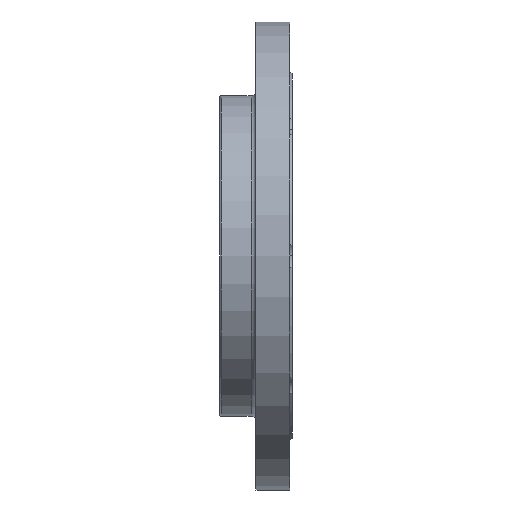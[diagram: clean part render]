
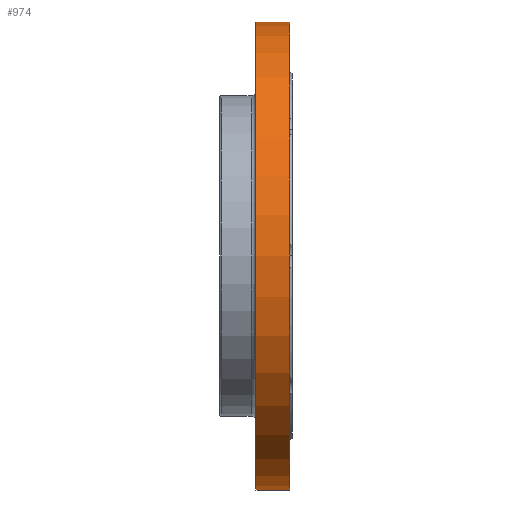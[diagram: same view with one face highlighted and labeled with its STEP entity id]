
A CAD part, left-side view. The second image highlights one B-rep face of the part: STEP entity #974.
In plain terms, the highlighted cylindrical face has radius 142.5 mm (diameter 285 mm), a partial arc.
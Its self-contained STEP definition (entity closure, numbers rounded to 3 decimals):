
#1 = EDGE_CURVE ( 'NONE', #358, #1579, #1483, .T. ) ;
#52 = CARTESIAN_POINT ( 'NONE',  ( 0., 84.699, -142.5 ) ) ;
#70 = CARTESIAN_POINT ( 'NONE',  ( 0., 84.699, 142.5 ) ) ;
#75 = CARTESIAN_POINT ( 'NONE',  ( 0., 22., 0. ) ) ;
#116 = CARTESIAN_POINT ( 'NONE',  ( 0., 22., -142.5 ) ) ;
#172 = EDGE_CURVE ( 'NONE', #1579, #1263, #1252, .T. ) ;
#199 = EDGE_CURVE ( 'NONE', #358, #347, #1486, .T. ) ;
#224 = DIRECTION ( 'NONE',  ( 0., 0., 1. ) ) ;
#250 = CARTESIAN_POINT ( 'NONE',  ( 0., 1.5, 0. ) ) ;
#282 = CARTESIAN_POINT ( 'NONE',  ( 0., 1.5, -142.5 ) ) ;
#347 = VERTEX_POINT ( 'NONE', #1360 ) ;
#358 = VERTEX_POINT ( 'NONE', #282 ) ;
#363 = AXIS2_PLACEMENT_3D ( 'NONE', #75, #854, #224 ) ;
#379 = EDGE_LOOP ( 'NONE', ( #1407, #1019, #1314, #1227 ) ) ;
#386 = DIRECTION ( 'NONE',  ( 0., 1., 0. ) ) ;
#519 = DIRECTION ( 'NONE',  ( 0., 1., 0. ) ) ;
#556 = FACE_OUTER_BOUND ( 'NONE', #379, .T. ) ;
#580 = DIRECTION ( 'NONE',  ( 0., 0., 1. ) ) ;
#688 = VECTOR ( 'NONE', #519, 1000. ) ;
#785 = AXIS2_PLACEMENT_3D ( 'NONE', #1041, #1313, #580 ) ;
#849 = EDGE_CURVE ( 'NONE', #347, #1263, #1400, .T. ) ;
#854 = DIRECTION ( 'NONE',  ( 0., 1., 0. ) ) ;
#863 = DIRECTION ( 'NONE',  ( 0., 0., 1. ) ) ;
#920 = AXIS2_PLACEMENT_3D ( 'NONE', #250, #1472, #863 ) ;
#974 = ADVANCED_FACE ( 'NONE', ( #556 ), #1306, .T. ) ;
#1019 = ORIENTED_EDGE ( 'NONE', *, *, #199, .T. ) ;
#1041 = CARTESIAN_POINT ( 'NONE',  ( 0., 84.699, 0. ) ) ;
#1227 = ORIENTED_EDGE ( 'NONE', *, *, #172, .F. ) ;
#1252 = CIRCLE ( 'NONE', #363, 142.5 ) ;
#1256 = CARTESIAN_POINT ( 'NONE',  ( 0., 22., 142.5 ) ) ;
#1263 = VERTEX_POINT ( 'NONE', #1256 ) ;
#1306 = CYLINDRICAL_SURFACE ( 'NONE', #785, 142.5 ) ;
#1313 = DIRECTION ( 'NONE',  ( 0., 1., 0. ) ) ;
#1314 = ORIENTED_EDGE ( 'NONE', *, *, #849, .T. ) ;
#1360 = CARTESIAN_POINT ( 'NONE',  ( 0., 1.5, 142.5 ) ) ;
#1400 = LINE ( 'NONE', #70, #688 ) ;
#1407 = ORIENTED_EDGE ( 'NONE', *, *, #1, .F. ) ;
#1472 = DIRECTION ( 'NONE',  ( 0., 1., 0. ) ) ;
#1483 = LINE ( 'NONE', #52, #1487 ) ;
#1486 = CIRCLE ( 'NONE', #920, 142.5 ) ;
#1487 = VECTOR ( 'NONE', #386, 1000. ) ;
#1579 = VERTEX_POINT ( 'NONE', #116 ) ;
